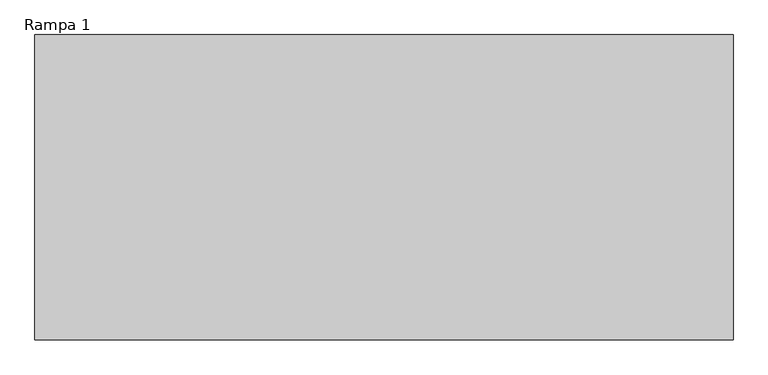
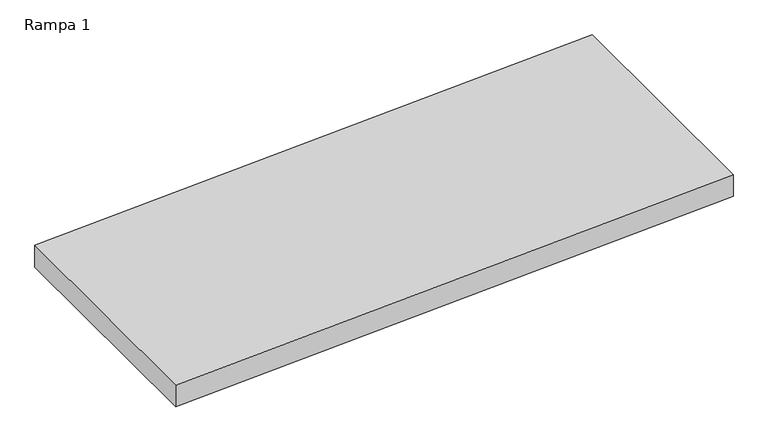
"""IFC4 building model written with IfcOpenShell, lengths in millimetres: ramp geometry, Rampa 1."""

from ifc_helpers import new_model, si_unit, frame, origin, place, context, project, spatial, polyline, outline, extrude, source, transform, mapped, element, save


def rampa_1_a4d67915(model_context):
    return source(origin(), model_context, "Body", "SweptSolid", [
        extrude(outline(polyline([(0.0, -4485.1873738), (-180.0, -8143.093518), (-330.1815008, -8143.093518), (-150.1815008, -4485.1873738), (0.0, -4485.1873738)])), frame((0.0, 393.6072273, 0.0), z_axis=(0.0, 1.0, 0.0), x_axis=(0.0, 0.0, 1.0)), (0.0, 0.0, 1.0), 1600.0),
    ])


if __name__ == "__main__":
    model = new_model("IFC4")
    model_context = context("Model", 3, world=origin())
    ifc_project = project(units=[si_unit("LENGTHUNIT", "METRE", prefix="MILLI")], contexts=[model_context])
    site = spatial("IfcSite", under=ifc_project)
    building = spatial("IfcBuilding", under=site)
    placement = place(None, origin())
    rampa_1_shape = rampa_1_a4d67915(model_context)
    element("IfcRamp", 1, ObjectType="Rampa 1", at=placement, inside=building, context=model_context, shape_type="MappedRepresentation", body=[
        mapped(rampa_1_shape, transform((0.0, 0.0, 0.0), x_axis=(1.0, 0.0, 0.0), y_axis=(0.0, 1.0, 0.0), z_axis=(0.0, 0.0, 1.0))),
    ])
    save(model, "model.ifc")
